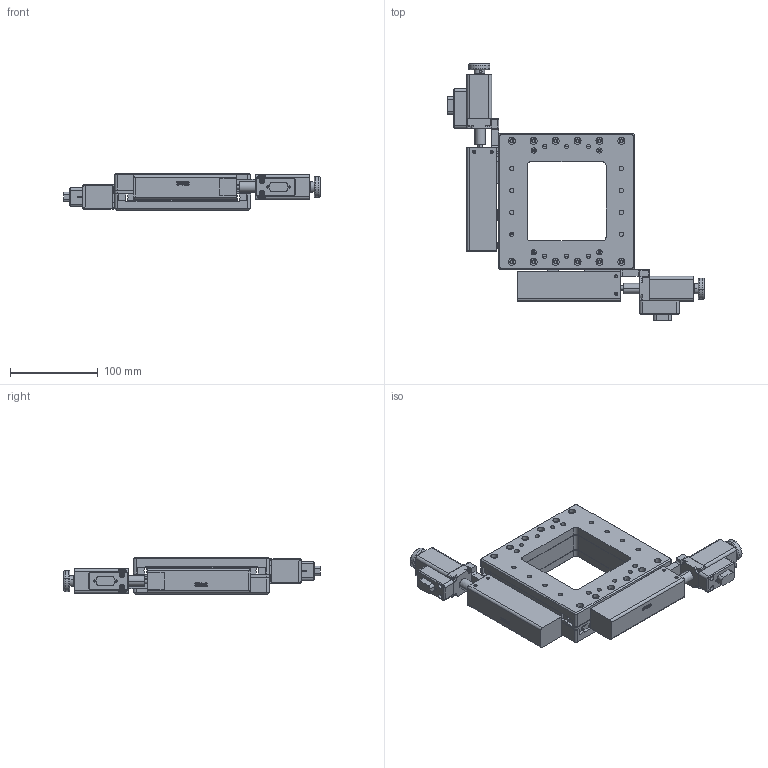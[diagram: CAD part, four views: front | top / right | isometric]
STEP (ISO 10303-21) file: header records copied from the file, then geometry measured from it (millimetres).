
FILE_DESCRIPTION (( 'STEP AP203' ), '1' );
FILE_NAME ('PT-XY50.STEP', '2022-09-03T01:58:21', ( '' ), ( '' ), 'SwSTEP 2.0', 'SolidWorks 2020', '' );
FILE_SCHEMA (( 'CONFIG_CONTROL_DESIGN' ));
Length unit declared in the file: millimetre
Products named in the file (22): hexagon socket head cap screws gb_GB_FASTENER_SCREWS_HSHCS M4X6-N; 錨璃1^PT-XY50蚾饜极1; 28萇儂; PDV-PT-XY50-1 菁啣; PDV-PT-XY50-10 萇儂釱; SFK00801-129P1 佪話; PDV-PT-XY50-6 粣創釱; JXV3-150 絳寢; SFK00801-129P1 蹟譫; PDV-PT-XY50-2 笢潔啣; PDV-PT-XY50-5 蹟簽迖殤; PDV-PT-XY50-4 坶譫; PDV-PT-XY50-12 誘欶; 13-5-5-酗18.5 薊粣ん; PDV-PT-XY50-9  9渀諉諳釱; PDV-PT-XY50-14 盄羞裔; 錨璃2^PT-XY50蚾饜极1; PDV-28萇儂忒謫; PDV-PT-XY50-8 掖譫; angular contact ball bearings gb_Rolling bearings S706 GB 292-94; PDV-PT-XY50-3 怢醱; PT-XY50
Assembly tree (45 placements, depth 2):
  錨璃1^PT-XY50蚾饜极1
  PT-XY50
    PDV-PT-XY50-1 菁啣
    JXV3-150 絳寢  x8
    PDV-PT-XY50-2 笢潔啣
    PDV-PT-XY50-3 怢醱
    PDV-PT-XY50-6 粣創釱  x2
    angular contact ball bearings gb_Rolling bearings S706 GB 292-94  x4
    SFK00801-129P1 佪話  x2
    SFK00801-129P1 蹟譫  x2
    PDV-PT-XY50-12 誘欶  x2
    PDV-PT-XY50-10 萇儂釱  x2
    28萇儂  x2
    PDV-28萇儂忒謫  x2
    PDV-PT-XY50-4 坶譫  x2
    PDV-PT-XY50-8 掖譫  x2
    13-5-5-酗18.5 薊粣ん  x2
    PDV-PT-XY50-14 盄羞裔  x2
    hexagon socket head cap screws gb_GB_FASTENER_SCREWS_HSHCS M4X6-N  x2
    PDV-PT-XY50-9  9渀諉諳釱  x2
    PDV-PT-XY50-5 蹟簽迖殤  x2
    錨璃2^PT-XY50蚾饜极1  x2
Bounding box: 292.5 x 292.5 x 42.5 mm (x, y, z)
Volume: 815606.7 mm3; surface area: 338535.2 mm2
Topology: 45 solids, 45 shells, 2466 faces, 7122 edges, 4628 vertices
Faces by surface type: cylinder 1001, plane 878, torus 192, bspline 152, cone 143, sphere 100
Entity records: 48114 total; most frequent: CARTESIAN_POINT 12028, DIRECTION 6921, ORIENTED_EDGE 6860, EDGE_CURVE 3430, AXIS2_PLACEMENT_3D 2589, VERTEX_POINT 2246, VECTOR 1743, LINE 1743
